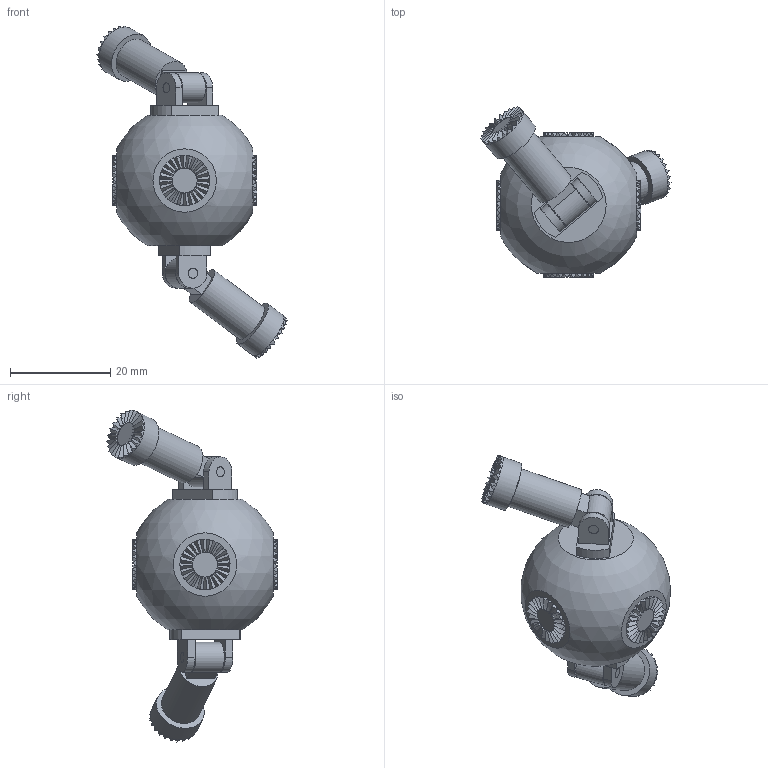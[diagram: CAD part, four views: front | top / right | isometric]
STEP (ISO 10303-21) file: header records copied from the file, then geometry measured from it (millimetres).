
FILE_DESCRIPTION(('Open CASCADE Model'),'2;1');
FILE_NAME('Open CASCADE Shape Model','2026-10-23T00:30:15',('Author'),( 'Open CASCADE'),'Open CASCADE STEP processor 7.9','Open CASCADE 7.9' ,'Unknown');
FILE_SCHEMA(('AUTOMOTIVE_DESIGN { 1 0 10303 214 1 1 1 1 }'));
Length unit declared in the file: millimetre
Products named in the file (10): bot_twisted; bot0_body; bot0_turret_top; bot0_pin_top; bot0_arm_top; bot0_tip_top; bot0_turret_bottom; bot0_pin_bottom; bot0_arm_bottom; bot0_tip_bottom
Assembly tree (9 placements, depth 2):
  bot_twisted
    bot0_body
    bot0_turret_top
    bot0_pin_top
    bot0_arm_top
    bot0_tip_top
    bot0_turret_bottom
    bot0_pin_bottom
    bot0_arm_bottom
    bot0_tip_bottom
Bounding box: 37.93 x 33.99 x 66.28 mm (x, y, z)
Volume: 6207.9 mm3; surface area: 9536 mm2
Topology: 9 solids, 9 shells, 880 faces, 2132 edges, 1298 vertices
Faces by surface type: cylinder 472, bspline 288, plane 118, sphere 2
Full cylindrical faces by diameter (mm): 2 x2, 2.04 x6, 2.6 x2, 3.8 x4, 5 x4, 5.2 x2, 6 x2, 8 x2, 10 x6, 14.967 x2
Entity records: 66767 total; most frequent: CARTESIAN_POINT 30769, DIRECTION 4307, ORIENTED_EDGE 4264, PCURVE 4264, DEFINITIONAL_REPRESENTATION 4264, B_SPLINE_CURVE_WITH_KNOTS 3834, EDGE_CURVE 2132, SURFACE_CURVE 2096
